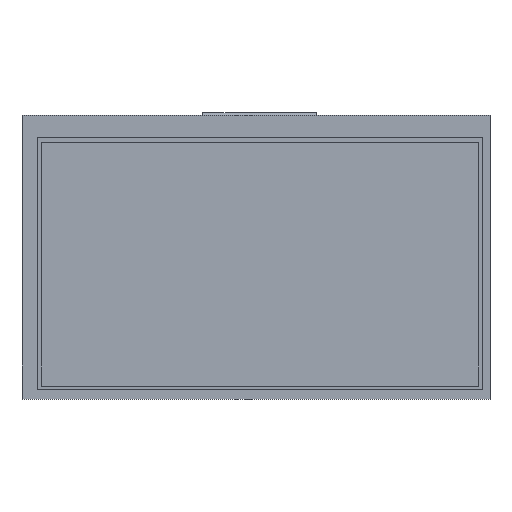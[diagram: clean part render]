
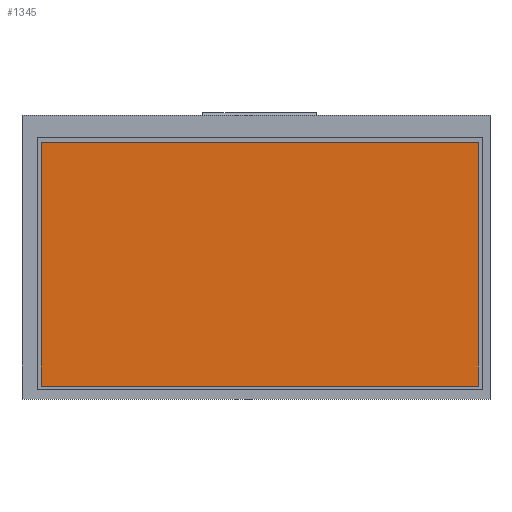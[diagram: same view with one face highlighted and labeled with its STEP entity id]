
A CAD part, top view. The second image highlights one B-rep face of the part: STEP entity #1345.
In plain terms, the highlighted planar face has unit normal (0, 0, 1).
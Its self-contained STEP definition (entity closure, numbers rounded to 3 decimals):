
#1345=ADVANCED_FACE('',(#1717),#1524,.T.);
#1524=PLANE('',#4773);
#1717=FACE_OUTER_BOUND('',#1907,.T.);
#1907=EDGE_LOOP('',(#2613,#2614,#2615,#2616));
#2613=ORIENTED_EDGE('',*,*,#3449,.T.);
#2614=ORIENTED_EDGE('',*,*,#3453,.T.);
#2615=ORIENTED_EDGE('',*,*,#3456,.T.);
#2616=ORIENTED_EDGE('',*,*,#3458,.T.);
#3049=VERTEX_POINT('',#6360);
#3050=VERTEX_POINT('',#6362);
#3052=VERTEX_POINT('',#6368);
#3054=VERTEX_POINT('',#6374);
#3449=EDGE_CURVE('',#3050,#3049,#3861,.T.);
#3453=EDGE_CURVE('',#3049,#3052,#3865,.T.);
#3456=EDGE_CURVE('',#3052,#3054,#3868,.T.);
#3458=EDGE_CURVE('',#3054,#3050,#3870,.T.);
#3861=LINE('',#6361,#4273);
#3865=LINE('',#6369,#4277);
#3868=LINE('',#6375,#4280);
#3870=LINE('',#6378,#4282);
#4273=VECTOR('',#5462,1.);
#4277=VECTOR('',#5468,1.);
#4280=VECTOR('',#5473,1.);
#4282=VECTOR('',#5477,1.);
#4773=AXIS2_PLACEMENT_3D('',#6380,#5480,#5481);
#5462=DIRECTION('',(0.,-1.,0.));
#5468=DIRECTION('',(1.,0.,0.));
#5473=DIRECTION('',(0.,1.,0.));
#5477=DIRECTION('',(-1.,0.,0.));
#5480=DIRECTION('',(0.,0.,1.));
#5481=DIRECTION('',(-1.,0.,0.));
#6360=CARTESIAN_POINT('',(-55.79,-55.06,3.92));
#6361=CARTESIAN_POINT('',(-55.79,30.86,3.92));
#6362=CARTESIAN_POINT('',(-55.79,30.86,3.92));
#6368=CARTESIAN_POINT('',(98.29,-55.06,3.92));
#6369=CARTESIAN_POINT('',(-55.79,-55.06,3.92));
#6374=CARTESIAN_POINT('',(98.29,30.86,3.92));
#6375=CARTESIAN_POINT('',(98.29,-55.06,3.92));
#6378=CARTESIAN_POINT('',(98.29,30.86,3.92));
#6380=CARTESIAN_POINT('',(0.,0.,3.92));
